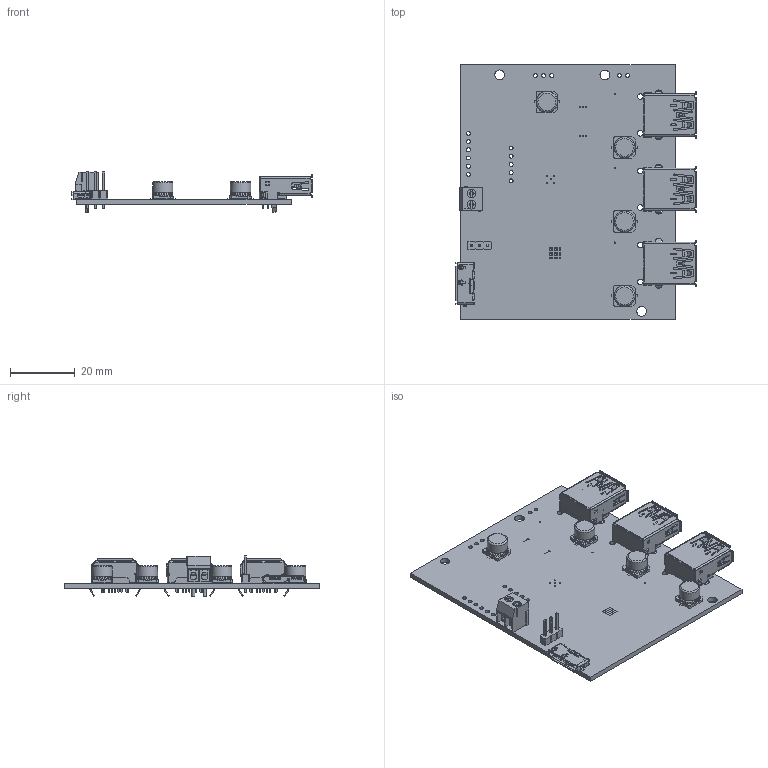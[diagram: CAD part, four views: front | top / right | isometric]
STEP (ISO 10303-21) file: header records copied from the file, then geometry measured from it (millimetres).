
FILE_DESCRIPTION(('KiCad electronic assembly'),'2;1');
FILE_NAME('ykush3-new.step','2021-09-27T16:46:32',('An Author'),( 'A Company'),'Open CASCADE STEP processor 7.5', 'KiCad to STEP converter','Unknown');
FILE_SCHEMA(('AUTOMOTIVE_DESIGN { 1 0 10303 214 1 1 1 1 }'));
Length unit declared in the file: millimetre
Products named in the file (12): Open CASCADE STEP translator 7.5 1; C_Elec_6.3x5.4; COMPOUND; gsb343133hr; SOLID; 8129641; screw-terminal; PinHeader_1x03_P2.54mm_Vertical
Assembly tree (16 placements, depth 3):
  Open CASCADE STEP translator 7.5 1
    C_Elec_6.3x5.4  x4
      COMPOUND
    gsb343133hr
      SOLID
    8129641  x3
      COMPOUND
    screw-terminal
      SOLID
    PinHeader_1x03_P2.54mm_Vertical
      SOLID
    COMPOUND
Bounding box: 74.57 x 78.95 x 12.74 mm (x, y, z)
Volume: 12025 mm3; surface area: 19726.2 mm2
Topology: 15 solids, 15 shells, 3915 faces, 10863 edges, 7067 vertices
Faces by surface type: plane 2624, cylinder 1155, bspline 115, torus 8, sphere 7, revolution 4, cone 2
Full cylindrical faces by diameter (mm): 0.02 x4, 0.35 x39, 0.7 x27, 1.1 x2, 1.2 x19, 1.7 x6, 2.3 x6, 3 x3, 6.3 x8
Entity records: 154099 total; most frequent: CARTESIAN_POINT 39192, DIRECTION 20950, LINE 14273, VECTOR 14273, ORIENTED_EDGE 11450, PCURVE 11450, DEFINITIONAL_REPRESENTATION 11450, EDGE_CURVE 5725
